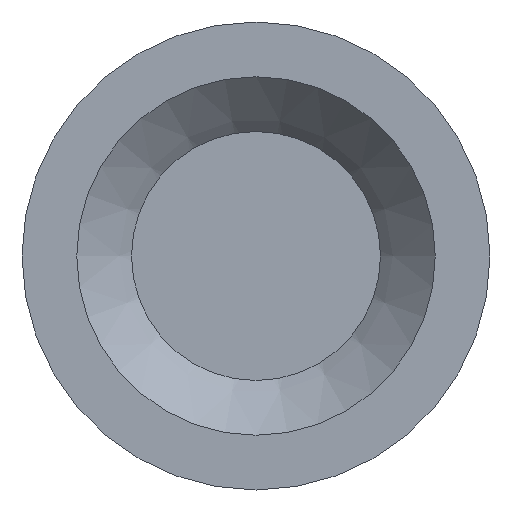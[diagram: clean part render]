
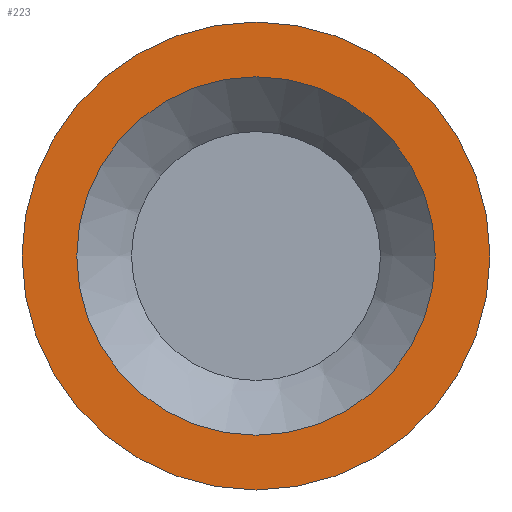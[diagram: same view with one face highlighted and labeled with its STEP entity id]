
A CAD part, left-side view. The second image highlights one B-rep face of the part: STEP entity #223.
In plain terms, the highlighted planar face has unit normal (-1, 0, 0).
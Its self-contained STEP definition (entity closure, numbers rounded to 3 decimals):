
#17=PLANE($,#257);
#35=FACE_BOUND($,#83,.T.);
#54=FACE_OUTER_BOUND($,#82,.T.);
#82=EDGE_LOOP($,(#182));
#83=EDGE_LOOP($,(#183));
#113=CIRCLE($,#256,0.914);
#114=CIRCLE($,#258,1.194);
#133=VERTEX_POINT($,#391);
#134=VERTEX_POINT($,#394);
#153=EDGE_CURVE($,#133,#133,#113,.T.);
#154=EDGE_CURVE($,#134,#134,#114,.T.);
#182=ORIENTED_EDGE($,*,*,#154,.F.);
#183=ORIENTED_EDGE($,*,*,#153,.T.);
#223=ADVANCED_FACE($,(#54,#35),#17,.T.);
#256=AXIS2_PLACEMENT_3D($,#392,#317,#318);
#257=AXIS2_PLACEMENT_3D($,#393,#319,#320);
#258=AXIS2_PLACEMENT_3D($,#395,#321,#322);
#317=DIRECTION('center_axis',(1.,0.,0.));
#318=DIRECTION('ref_axis',(0.,1.,0.));
#319=DIRECTION('center_axis',(-1.,0.,0.));
#320=DIRECTION('ref_axis',(0.,0.,1.));
#321=DIRECTION('center_axis',(1.,0.,0.));
#322=DIRECTION('ref_axis',(0.,1.,0.));
#391=CARTESIAN_POINT('',(7.036,0.914,0.));
#392=CARTESIAN_POINT('Origin',(7.036,0.,0.));
#393=CARTESIAN_POINT('Origin',(7.036,1.054,0.));
#394=CARTESIAN_POINT('',(7.036,1.194,0.));
#395=CARTESIAN_POINT('Origin',(7.036,0.,0.));
